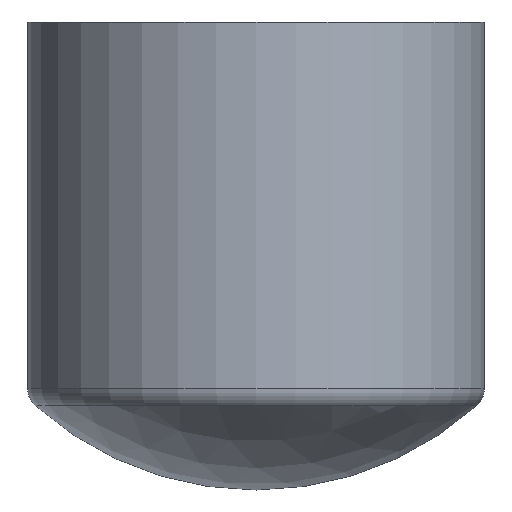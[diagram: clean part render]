
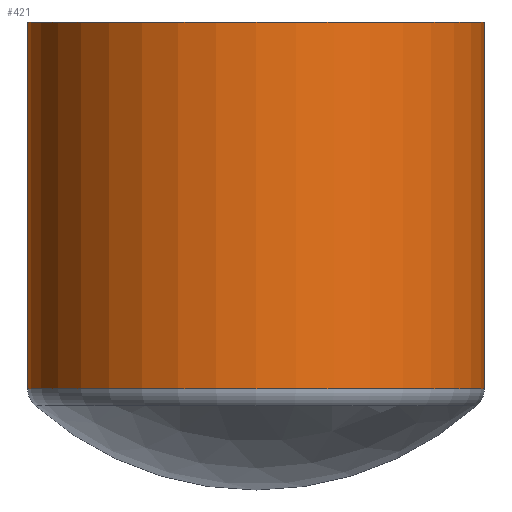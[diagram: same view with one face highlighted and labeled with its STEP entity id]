
A CAD part, front view. The second image highlights one B-rep face of the part: STEP entity #421.
In plain terms, the highlighted cylindrical face has radius 20 mm (diameter 40 mm), a partial arc.
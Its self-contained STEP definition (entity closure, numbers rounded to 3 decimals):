
#7 = VECTOR ( 'NONE', #364, 1000. ) ;
#9 = CARTESIAN_POINT ( 'NONE',  ( 20., 0., 0.875 ) ) ;
#11 = EDGE_CURVE ( 'NONE', #249, #146, #358, .T. ) ;
#15 = CYLINDRICAL_SURFACE ( 'NONE', #392, 20. ) ;
#21 = CARTESIAN_POINT ( 'NONE',  ( 20., 0., 33. ) ) ;
#43 = CARTESIAN_POINT ( 'NONE',  ( 0., 0., 0.875 ) ) ;
#70 = FACE_OUTER_BOUND ( 'NONE', #337, .T. ) ;
#78 = DIRECTION ( 'NONE',  ( -1., 0., 0. ) ) ;
#81 = AXIS2_PLACEMENT_3D ( 'NONE', #212, #180, #101 ) ;
#90 = VERTEX_POINT ( 'NONE', #9 ) ;
#101 = DIRECTION ( 'NONE',  ( 1., 0., 0. ) ) ;
#109 = DIRECTION ( 'NONE',  ( 1., 0., 0. ) ) ;
#146 = VERTEX_POINT ( 'NONE', #301 ) ;
#176 = LINE ( 'NONE', #21, #434 ) ;
#180 = DIRECTION ( 'NONE',  ( 0., 0., 1. ) ) ;
#182 = ORIENTED_EDGE ( 'NONE', *, *, #396, .F. ) ;
#189 = ORIENTED_EDGE ( 'NONE', *, *, #191, .F. ) ;
#190 = CARTESIAN_POINT ( 'NONE',  ( 20., 0., 33. ) ) ;
#191 = EDGE_CURVE ( 'NONE', #249, #235, #375, .T. ) ;
#212 = CARTESIAN_POINT ( 'NONE',  ( 0., 0., 33. ) ) ;
#235 = VERTEX_POINT ( 'NONE', #190 ) ;
#249 = VERTEX_POINT ( 'NONE', #288 ) ;
#252 = ORIENTED_EDGE ( 'NONE', *, *, #368, .T. ) ;
#288 = CARTESIAN_POINT ( 'NONE',  ( -20., 0., 33. ) ) ;
#289 = DIRECTION ( 'NONE',  ( 0., 0., -1. ) ) ;
#298 = CIRCLE ( 'NONE', #427, 20. ) ;
#301 = CARTESIAN_POINT ( 'NONE',  ( -20., 0., 0.875 ) ) ;
#337 = EDGE_LOOP ( 'NONE', ( #182, #189, #354, #252 ) ) ;
#354 = ORIENTED_EDGE ( 'NONE', *, *, #11, .T. ) ;
#358 = LINE ( 'NONE', #399, #7 ) ;
#364 = DIRECTION ( 'NONE',  ( 0., 0., -1. ) ) ;
#368 = EDGE_CURVE ( 'NONE', #146, #90, #298, .T. ) ;
#375 = CIRCLE ( 'NONE', #81, 20. ) ;
#380 = CARTESIAN_POINT ( 'NONE',  ( 0., 0., 33. ) ) ;
#383 = DIRECTION ( 'NONE',  ( 0., 0., 1. ) ) ;
#392 = AXIS2_PLACEMENT_3D ( 'NONE', #380, #419, #78 ) ;
#396 = EDGE_CURVE ( 'NONE', #235, #90, #176, .T. ) ;
#399 = CARTESIAN_POINT ( 'NONE',  ( -20., 0., 33. ) ) ;
#419 = DIRECTION ( 'NONE',  ( 0., 0., -1. ) ) ;
#421 = ADVANCED_FACE ( 'NONE', ( #70 ), #15, .T. ) ;
#427 = AXIS2_PLACEMENT_3D ( 'NONE', #43, #383, #109 ) ;
#434 = VECTOR ( 'NONE', #289, 1000. ) ;
